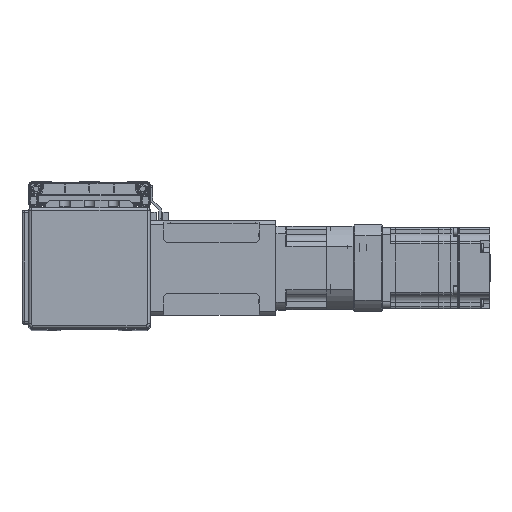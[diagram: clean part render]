
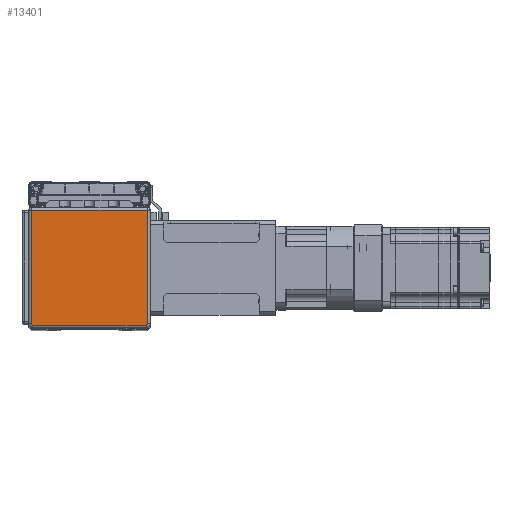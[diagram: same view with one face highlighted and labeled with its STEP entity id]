
A CAD part, top view. The second image highlights one B-rep face of the part: STEP entity #13401.
In plain terms, the highlighted planar face has unit normal (0, 0, 1).
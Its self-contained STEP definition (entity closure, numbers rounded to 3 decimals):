
#1502 = CARTESIAN_POINT ( 'NONE',  ( -42., -58.599, 55. ) ) ;
#1539 = CARTESIAN_POINT ( 'NONE',  ( 43., 26.901, 55. ) ) ;
#1631 = CARTESIAN_POINT ( 'NONE',  ( 42., -58.599, 55. ) ) ;
#1663 = CARTESIAN_POINT ( 'NONE',  ( -43., 26.901, 55. ) ) ;
#1667 = CARTESIAN_POINT ( 'NONE',  ( -43., -57.599, 55. ) ) ;
#1711 = CARTESIAN_POINT ( 'NONE',  ( 43., -57.599, 55. ) ) ;
#3670 = FACE_OUTER_BOUND ( 'NONE', #57896, .T. ) ;
#10760 = AXIS2_PLACEMENT_3D ( 'NONE', #57568, #57557, #57580 ) ;
#10773 = AXIS2_PLACEMENT_3D ( 'NONE', #57494, #57469, #57504 ) ;
#13401 = ADVANCED_FACE ( 'NONE', ( #3670 ), #76203, .T. ) ;
#39166 = ORIENTED_EDGE ( 'NONE', *, *, #67293, .T. ) ;
#39179 = ORIENTED_EDGE ( 'NONE', *, *, #67285, .T. ) ;
#39189 = ORIENTED_EDGE ( 'NONE', *, *, #67324, .T. ) ;
#39194 = ORIENTED_EDGE ( 'NONE', *, *, #67239, .T. ) ;
#39207 = ORIENTED_EDGE ( 'NONE', *, *, #67249, .T. ) ;
#39351 = ORIENTED_EDGE ( 'NONE', *, *, #67268, .T. ) ;
#39964 = AXIS2_PLACEMENT_3D ( 'NONE', #76217, #76173, #76185 ) ;
#57469 = DIRECTION ( 'NONE',  ( 0., 0., 1. ) ) ;
#57487 = DIRECTION ( 'NONE',  ( 0., -1., 0. ) ) ;
#57494 = CARTESIAN_POINT ( 'NONE',  ( -42., -57.599, 55. ) ) ;
#57502 = CARTESIAN_POINT ( 'NONE',  ( -43., -57.599, 55. ) ) ;
#57504 = DIRECTION ( 'NONE',  ( 1., 0., 0. ) ) ;
#57551 = CARTESIAN_POINT ( 'NONE',  ( -43., 26.901, 55. ) ) ;
#57557 = DIRECTION ( 'NONE',  ( 0., 0., 1. ) ) ;
#57568 = CARTESIAN_POINT ( 'NONE',  ( 42., -57.599, 55. ) ) ;
#57580 = DIRECTION ( 'NONE',  ( 1., 0., 0. ) ) ;
#57604 = DIRECTION ( 'NONE',  ( -1., 0., 0. ) ) ;
#57622 = DIRECTION ( 'NONE',  ( 1., 0., 0. ) ) ;
#57624 = CARTESIAN_POINT ( 'NONE',  ( 42., -58.599, 55. ) ) ;
#57684 = DIRECTION ( 'NONE',  ( 0., 1., 0. ) ) ;
#57708 = CARTESIAN_POINT ( 'NONE',  ( 43., 26.901, 55. ) ) ;
#57896 = EDGE_LOOP ( 'NONE', ( #39189, #39179, #39207, #39194, #39166, #39351 ) ) ;
#67239 = EDGE_CURVE ( 'NONE', #77271, #77189, #70087, .T. ) ;
#67249 = EDGE_CURVE ( 'NONE', #77266, #77271, #70119, .T. ) ;
#67268 = EDGE_CURVE ( 'NONE', #77249, #77314, #70168, .T. ) ;
#67285 = EDGE_CURVE ( 'NONE', #77200, #77266, #70307, .T. ) ;
#67293 = EDGE_CURVE ( 'NONE', #77189, #77249, #70348, .T. ) ;
#67324 = EDGE_CURVE ( 'NONE', #77314, #77200, #70380, .T. ) ;
#70087 = CIRCLE ( 'NONE', #10773, 1. ) ;
#70119 = LINE ( 'NONE', #57502, #70123 ) ;
#70123 = VECTOR ( 'NONE', #57487, 1000. ) ;
#70168 = CIRCLE ( 'NONE', #10760, 1. ) ;
#70248 = VECTOR ( 'NONE', #57604, 1000. ) ;
#70282 = VECTOR ( 'NONE', #57622, 1000. ) ;
#70307 = LINE ( 'NONE', #57551, #70248 ) ;
#70348 = LINE ( 'NONE', #57624, #70282 ) ;
#70380 = LINE ( 'NONE', #57708, #70447 ) ;
#70447 = VECTOR ( 'NONE', #57684, 1000. ) ;
#76173 = DIRECTION ( 'NONE',  ( 0., 0., 1. ) ) ;
#76185 = DIRECTION ( 'NONE',  ( 1., 0., 0. ) ) ;
#76203 = PLANE ( 'NONE',  #39964 ) ;
#76217 = CARTESIAN_POINT ( 'NONE',  ( -43., 26.901, 55. ) ) ;
#77189 = VERTEX_POINT ( 'NONE', #1502 ) ;
#77200 = VERTEX_POINT ( 'NONE', #1539 ) ;
#77249 = VERTEX_POINT ( 'NONE', #1631 ) ;
#77266 = VERTEX_POINT ( 'NONE', #1663 ) ;
#77271 = VERTEX_POINT ( 'NONE', #1667 ) ;
#77314 = VERTEX_POINT ( 'NONE', #1711 ) ;
